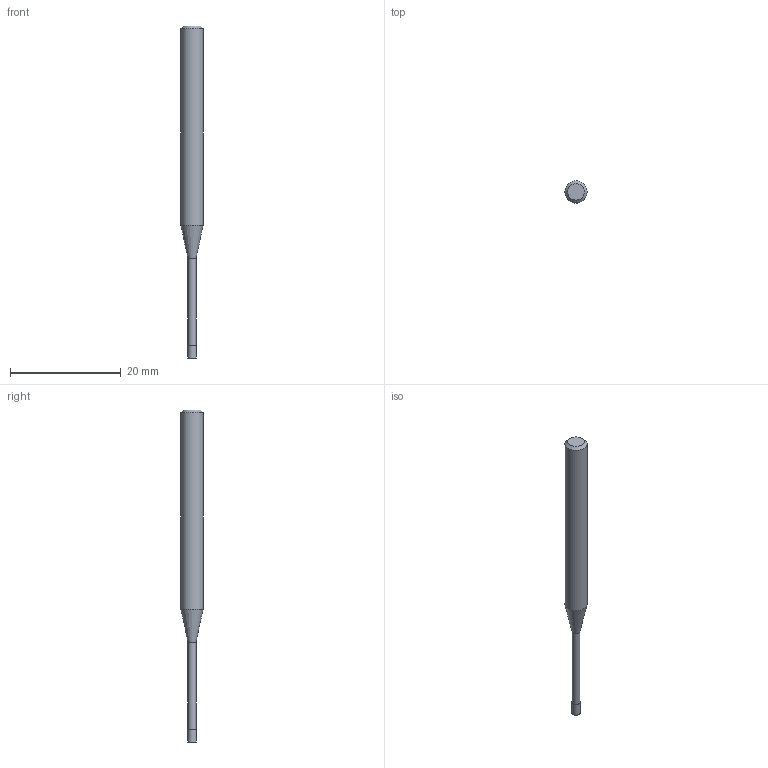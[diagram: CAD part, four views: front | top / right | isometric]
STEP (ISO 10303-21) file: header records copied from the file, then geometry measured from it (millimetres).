
FILE_DESCRIPTION((''),'2;1');
FILE_NAME('C:\Users\nsx150\AppData\Local\Temp\Mastercam 2021\17T8Q8S9EB\TEMP.step','2021-04-21T14:26:46',(''),(''),'STEP Write','Mastercam 2021 ... CNC Software, Inc.','');
FILE_SCHEMA(('AUTOMOTIVE_DESIGN'));
Length unit declared in the file: millimetre
Products named in the file (1): None
Bounding box: 4 x 4 x 60 mm (x, y, z)
Volume: 518.5 mm3; surface area: 601 mm2
Topology: 2 solids, 2 shells, 9 faces, 12 edges, 7 vertices
Faces by surface type: plane 4, cylinder 3, cone 2
Full cylindrical faces by diameter (mm): 1.45 x1, 1.5 x1, 4 x1
Entity records: 211 total; most frequent: DIRECTION 36, CARTESIAN_POINT 25, AXIS2_PLACEMENT_3D 18, ORIENTED_EDGE 14, EDGE_LOOP 14, STYLED_ITEM 12, ADVANCED_FACE 9, FACE_BOUND 8
